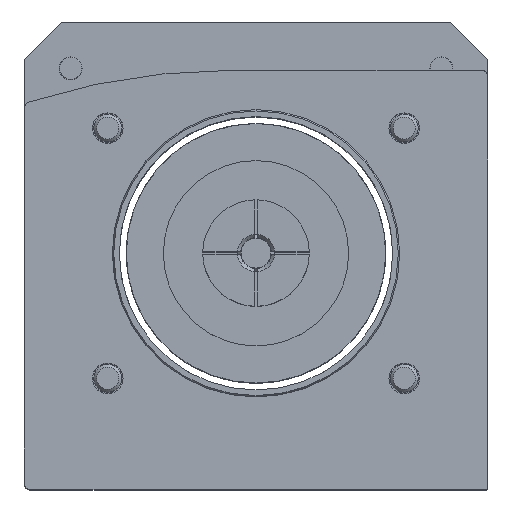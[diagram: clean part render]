
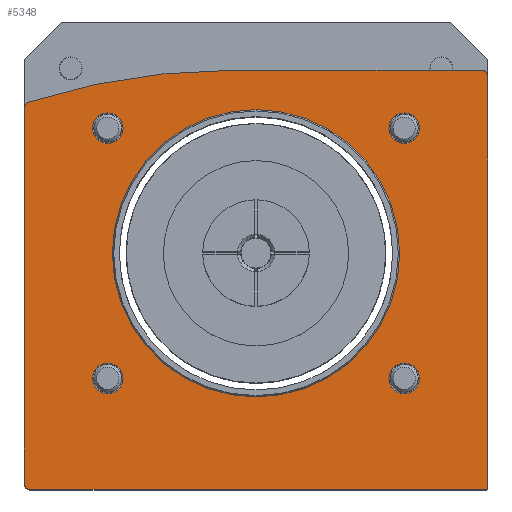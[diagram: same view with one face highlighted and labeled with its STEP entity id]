
A CAD part, top view. The second image highlights one B-rep face of the part: STEP entity #5348.
In plain terms, the highlighted planar face has unit normal (0, 0, 1).
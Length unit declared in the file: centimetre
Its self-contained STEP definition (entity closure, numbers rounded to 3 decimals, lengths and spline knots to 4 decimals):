
#172=LINE($,#8070,#573);
#176=LINE($,#8082,#577);
#180=LINE($,#8094,#581);
#184=LINE($,#8104,#585);
#573=VECTOR($,#6386,5.38);
#577=VECTOR($,#6398,8.91);
#581=VECTOR($,#6410,9.86);
#585=VECTOR($,#6422,8.1048);
#976=PLANE($,#5712);
#1193=FACE_BOUND($,#1672,.T.);
#1194=FACE_BOUND($,#1673,.T.);
#1195=FACE_BOUND($,#1674,.T.);
#1196=FACE_BOUND($,#1675,.T.);
#1197=FACE_BOUND($,#1676,.T.);
#1198=FACE_BOUND($,#1677,.T.);
#1672=EDGE_LOOP($,(#3755));
#1673=EDGE_LOOP($,(#3756));
#1674=EDGE_LOOP($,(#3757));
#1675=EDGE_LOOP($,(#3758));
#1676=EDGE_LOOP($,(#3759));
#1677=EDGE_LOOP($,(#3760,#3761,#3762,#3763,#3764,#3765,#3766,#3767,#3768));
#2103=CIRCLE($,#5668,0.33);
#2105=CIRCLE($,#5671,0.33);
#2107=CIRCLE($,#5674,0.33);
#2109=CIRCLE($,#5677,0.33);
#2115=CIRCLE($,#5686,3.1);
#2119=CIRCLE($,#5695,0.15);
#2121=CIRCLE($,#5698,14.5);
#2123=CIRCLE($,#5702,0.12);
#2125=CIRCLE($,#5706,0.02);
#2127=CIRCLE($,#5710,0.12);
#2403=VERTEX_POINT($,#8011);
#2405=VERTEX_POINT($,#8016);
#2407=VERTEX_POINT($,#8021);
#2409=VERTEX_POINT($,#8026);
#2415=VERTEX_POINT($,#8041);
#2420=VERTEX_POINT($,#8055);
#2421=VERTEX_POINT($,#8057);
#2423=VERTEX_POINT($,#8063);
#2425=VERTEX_POINT($,#8069);
#2427=VERTEX_POINT($,#8075);
#2429=VERTEX_POINT($,#8081);
#2431=VERTEX_POINT($,#8087);
#2433=VERTEX_POINT($,#8093);
#2435=VERTEX_POINT($,#8099);
#2934=EDGE_CURVE($,#2403,#2403,#2103,.T.);
#2936=EDGE_CURVE($,#2405,#2405,#2105,.T.);
#2938=EDGE_CURVE($,#2407,#2407,#2107,.T.);
#2940=EDGE_CURVE($,#2409,#2409,#2109,.T.);
#2946=EDGE_CURVE($,#2415,#2415,#2115,.T.);
#2951=EDGE_CURVE($,#2421,#2420,#2119,.T.);
#2954=EDGE_CURVE($,#2423,#2421,#2121,.T.);
#2957=EDGE_CURVE($,#2425,#2423,#172,.T.);
#2960=EDGE_CURVE($,#2427,#2425,#2123,.T.);
#2963=EDGE_CURVE($,#2429,#2427,#176,.T.);
#2966=EDGE_CURVE($,#2431,#2429,#2125,.T.);
#2969=EDGE_CURVE($,#2433,#2431,#180,.T.);
#2972=EDGE_CURVE($,#2435,#2433,#2127,.T.);
#2975=EDGE_CURVE($,#2420,#2435,#184,.T.);
#3755=ORIENTED_EDGE($,*,*,#2934,.T.);
#3756=ORIENTED_EDGE($,*,*,#2936,.T.);
#3757=ORIENTED_EDGE($,*,*,#2938,.T.);
#3758=ORIENTED_EDGE($,*,*,#2940,.T.);
#3759=ORIENTED_EDGE($,*,*,#2946,.T.);
#3760=ORIENTED_EDGE($,*,*,#2975,.T.);
#3761=ORIENTED_EDGE($,*,*,#2972,.T.);
#3762=ORIENTED_EDGE($,*,*,#2969,.T.);
#3763=ORIENTED_EDGE($,*,*,#2966,.T.);
#3764=ORIENTED_EDGE($,*,*,#2963,.T.);
#3765=ORIENTED_EDGE($,*,*,#2960,.T.);
#3766=ORIENTED_EDGE($,*,*,#2957,.T.);
#3767=ORIENTED_EDGE($,*,*,#2954,.T.);
#3768=ORIENTED_EDGE($,*,*,#2951,.T.);
#5348=ADVANCED_FACE($,(#1193,#1194,#1195,#1196,#1197,#1198),#976,.T.);
#5668=AXIS2_PLACEMENT_3D($,#8012,#6318,#6319);
#5671=AXIS2_PLACEMENT_3D($,#8017,#6324,#6325);
#5674=AXIS2_PLACEMENT_3D($,#8022,#6330,#6331);
#5677=AXIS2_PLACEMENT_3D($,#8027,#6336,#6337);
#5686=AXIS2_PLACEMENT_3D($,#8042,#6354,#6355);
#5695=AXIS2_PLACEMENT_3D($,#8058,#6373,#6374);
#5698=AXIS2_PLACEMENT_3D($,#8064,#6380,#6381);
#5702=AXIS2_PLACEMENT_3D($,#8076,#6392,#6393);
#5706=AXIS2_PLACEMENT_3D($,#8088,#6404,#6405);
#5710=AXIS2_PLACEMENT_3D($,#8100,#6416,#6417);
#5712=AXIS2_PLACEMENT_3D($,#8105,#6423,#6424);
#6318=DIRECTION('center_axis',(0.,0.,-1.));
#6319=DIRECTION('ref_axis',(-1.,0.,0.));
#6324=DIRECTION('center_axis',(0.,0.,-1.));
#6325=DIRECTION('ref_axis',(-1.,0.,0.));
#6330=DIRECTION('center_axis',(0.,0.,-1.));
#6331=DIRECTION('ref_axis',(-1.,0.,0.));
#6336=DIRECTION('center_axis',(0.,0.,-1.));
#6337=DIRECTION('ref_axis',(-1.,0.,0.));
#6354=DIRECTION('center_axis',(0.,0.,-1.));
#6355=DIRECTION('ref_axis',(0.,1.,0.));
#6373=DIRECTION('center_axis',(0.,0.,1.));
#6374=DIRECTION('ref_axis',(-0.303,0.953,0.));
#6380=DIRECTION('center_axis',(0.,0.,1.));
#6381=DIRECTION('ref_axis',(0.,1.,0.));
#6386=DIRECTION($,(-1.,0.,0.));
#6392=DIRECTION('center_axis',(0.,0.,1.));
#6393=DIRECTION('ref_axis',(1.,0.,0.));
#6398=DIRECTION($,(0.,1.,0.));
#6404=DIRECTION('center_axis',(0.,0.,1.));
#6405=DIRECTION('ref_axis',(0.,-1.,0.));
#6410=DIRECTION($,(1.,0.,0.));
#6416=DIRECTION('center_axis',(0.,0.,1.));
#6417=DIRECTION('ref_axis',(-1.,0.,0.));
#6422=DIRECTION($,(0.,-1.,0.));
#6423=DIRECTION('center_axis',(0.,0.,1.));
#6424=DIRECTION('ref_axis',(1.,0.,0.));
#8011=CARTESIAN_POINT('',(-3.53,2.7,4.8));
#8012=CARTESIAN_POINT('Origin',(-3.2,2.7,4.8));
#8016=CARTESIAN_POINT('',(-3.53,-2.7,4.8));
#8017=CARTESIAN_POINT('Origin',(-3.2,-2.7,4.8));
#8021=CARTESIAN_POINT('',(2.87,-2.7,4.8));
#8022=CARTESIAN_POINT('Origin',(3.2,-2.7,4.8));
#8026=CARTESIAN_POINT('',(2.87,2.7,4.8));
#8027=CARTESIAN_POINT('Origin',(3.2,2.7,4.8));
#8041=CARTESIAN_POINT('',(0.,-3.1,4.8));
#8042=CARTESIAN_POINT('Origin',(0.,0.,4.8));
#8055=CARTESIAN_POINT('',(-5.,3.1248,4.8));
#8057=CARTESIAN_POINT('',(-4.8955,3.2677,4.8));
#8058=CARTESIAN_POINT('Origin',(-4.85,3.1248,4.8));
#8063=CARTESIAN_POINT('',(-0.5,3.95,4.8));
#8064=CARTESIAN_POINT('Origin',(-0.5,-10.55,4.8));
#8069=CARTESIAN_POINT('',(4.88,3.95,4.8));
#8070=CARTESIAN_POINT($,(4.88,3.95,4.8));
#8075=CARTESIAN_POINT('',(5.,3.83,4.8));
#8076=CARTESIAN_POINT('Origin',(4.88,3.83,4.8));
#8081=CARTESIAN_POINT('',(5.,-5.08,4.8));
#8082=CARTESIAN_POINT($,(5.,-5.08,4.8));
#8087=CARTESIAN_POINT('',(4.98,-5.1,4.8));
#8088=CARTESIAN_POINT('Origin',(4.98,-5.08,4.8));
#8093=CARTESIAN_POINT('',(-4.88,-5.1,4.8));
#8094=CARTESIAN_POINT($,(-4.88,-5.1,4.8));
#8099=CARTESIAN_POINT('',(-5.,-4.98,4.8));
#8100=CARTESIAN_POINT('Origin',(-4.88,-4.98,4.8));
#8104=CARTESIAN_POINT($,(-5.,3.1248,4.8));
#8105=CARTESIAN_POINT('Origin',(0.1836,-0.8178,4.8));
